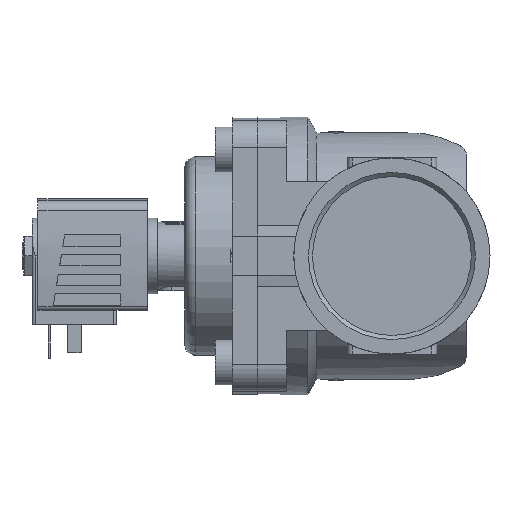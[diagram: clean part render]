
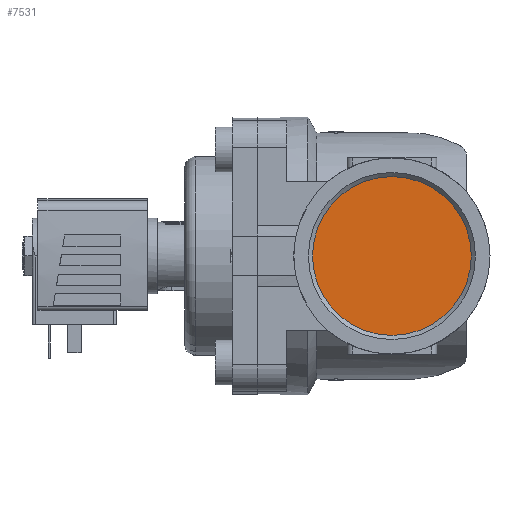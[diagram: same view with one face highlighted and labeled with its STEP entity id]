
A CAD part, left-side view. The second image highlights one B-rep face of the part: STEP entity #7531.
In plain terms, the highlighted planar face has unit normal (-1, 0, 0).
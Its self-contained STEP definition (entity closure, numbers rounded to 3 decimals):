
#2695=ORIENTED_EDGE('',*,*,#3902,.F.);
#3902=EDGE_CURVE('',#4612,#4612,#4949,.T.);
#4612=VERTEX_POINT('',#11647);
#4949=CIRCLE('',#8093,28.328);
#5270=EDGE_LOOP('',(#2695));
#5676=FACE_BOUND('',#5270,.T.);
#5972=PLANE('',#8094);
#7531=ADVANCED_FACE('',(#5676),#5972,.T.);
#8093=AXIS2_PLACEMENT_3D('',#11646,#9525,#9526);
#8094=AXIS2_PLACEMENT_3D('',#11648,#9527,#9528);
#9525=DIRECTION('',(1.,0.,0.));
#9526=DIRECTION('',(0.,1.,0.));
#9527=DIRECTION('',(-1.,0.,0.));
#9528=DIRECTION('',(0.,-1.,0.));
#11646=CARTESIAN_POINT('',(-41.,0.,0.));
#11647=CARTESIAN_POINT('',(-41.,28.328,0.));
#11648=CARTESIAN_POINT('',(-41.,28.328,0.));
